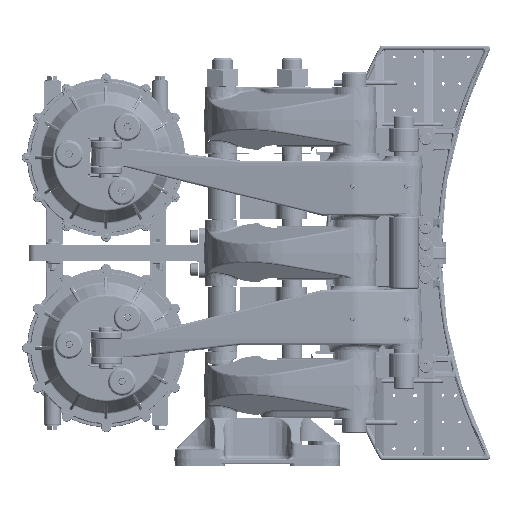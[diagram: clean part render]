
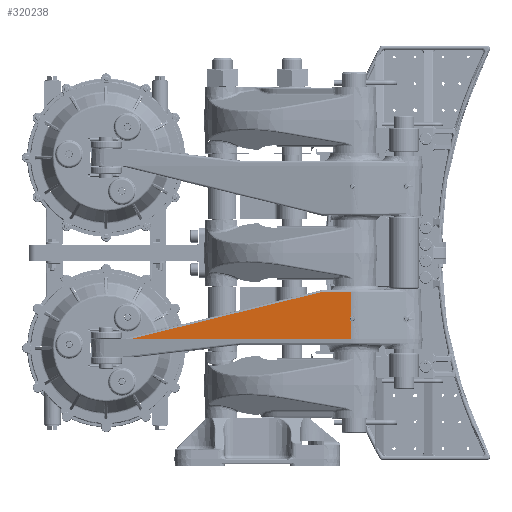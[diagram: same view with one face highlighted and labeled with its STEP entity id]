
A CAD part, top view. The second image highlights one B-rep face of the part: STEP entity #320238.
In plain terms, the highlighted planar face has unit normal (-0.115, 0.035, 0.993).
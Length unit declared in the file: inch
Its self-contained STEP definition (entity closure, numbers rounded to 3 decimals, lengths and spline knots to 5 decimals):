
#12705 = CARTESIAN_POINT ( 'NONE',  ( 1.53793, -4.02473, 7.39436 ) ) ;
#28800 = ORIENTED_EDGE ( 'NONE', *, *, #94747, .T. ) ;
#32259 = CARTESIAN_POINT ( 'NONE',  ( 1.56602, -2.37064, 7.33945 ) ) ;
#38008 = PLANE ( 'NONE',  #123797 ) ;
#45712 = DIRECTION ( 'NONE',  ( 0.004, 0.999, -0.035 ) ) ;
#61890 = ORIENTED_EDGE ( 'NONE', *, *, #306509, .T. ) ;
#70260 = VECTOR ( 'NONE', #135863, 39.37008 ) ;
#83064 = LINE ( 'NONE', #387217, #121386 ) ;
#92175 = CARTESIAN_POINT ( 'NONE',  ( 1.5381, -3.98159, 7.39286 ) ) ;
#94747 = EDGE_CURVE ( 'NONE', #353057, #443726, #350864, .T. ) ;
#98472 = LINE ( 'NONE', #138326, #70260 ) ;
#100011 = CARTESIAN_POINT ( 'NONE',  ( -11.80756, -5.225, 5.89732 ) ) ;
#110264 = CARTESIAN_POINT ( 'NONE',  ( 1.5546, -5.225, 7.43848 ) ) ;
#112262 = DIRECTION ( 'NONE',  ( -0.993, 0., -0.115 ) ) ;
#117606 = FACE_OUTER_BOUND ( 'NONE', #256501, .T. ) ;
#121386 = VECTOR ( 'NONE', #45712, 39.37008 ) ;
#123797 = AXIS2_PLACEMENT_3D ( 'NONE', #110264, #229793, #264781 ) ;
#128702 = DIRECTION ( 'NONE',  ( 0.993, 0., 0.115 ) ) ;
#135863 = DIRECTION ( 'NONE',  ( -0.966, -0.237, -0.103 ) ) ;
#138326 = CARTESIAN_POINT ( 'NONE',  ( 0.81552, -2.12809, 7.24437 ) ) ;
#163842 = VECTOR ( 'NONE', #430544, 39.37008 ) ;
#168853 = VERTEX_POINT ( 'NONE', #32259 ) ;
#213941 =( BOUNDED_CURVE ( )  B_SPLINE_CURVE ( 3, ( #356587, #12705, #92175, #391434 ),
 .UNSPECIFIED., .F., .T. ) 
 B_SPLINE_CURVE_WITH_KNOTS ( ( 4, 4 ),
 ( 2.06666, 3.11371 ),
 .UNSPECIFIED. ) 
 CURVE ( )  GEOMETRIC_REPRESENTATION_ITEM ( )  RATIONAL_B_SPLINE_CURVE ( ( 1., 0.911, 0.911, 1. ) ) 
 REPRESENTATION_ITEM ( '' )  );
#229793 = DIRECTION ( 'NONE',  ( -0.115, 0.035, 0.993 ) ) ;
#236057 = EDGE_CURVE ( 'NONE', #256280, #383861, #213941, .T. ) ;
#242087 = CARTESIAN_POINT ( 'NONE',  ( 1.55972, -3.94431, 7.39405 ) ) ;
#243215 = ORIENTED_EDGE ( 'NONE', *, *, #236057, .T. ) ;
#256280 = VERTEX_POINT ( 'NONE', #480177 ) ;
#256501 = EDGE_LOOP ( 'NONE', ( #381064, #243215, #311304, #61890, #446522, #28800 ) ) ;
#264781 = DIRECTION ( 'NONE',  ( -0.993, 0., -0.115 ) ) ;
#271720 = LINE ( 'NONE', #416362, #381625 ) ;
#283750 = EDGE_CURVE ( 'NONE', #443726, #256280, #83064, .T. ) ;
#285571 = VECTOR ( 'NONE', #128702, 39.37008 ) ;
#292310 = VERTEX_POINT ( 'NONE', #395205 ) ;
#306509 = EDGE_CURVE ( 'NONE', #168853, #292310, #271720, .T. ) ;
#311304 = ORIENTED_EDGE ( 'NONE', *, *, #445738, .T. ) ;
#320238 = ADVANCED_FACE ( 'NONE', ( #117606 ), #38008, .T. ) ;
#350864 = LINE ( 'NONE', #470144, #285571 ) ;
#353057 = VERTEX_POINT ( 'NONE', #100011 ) ;
#356587 = CARTESIAN_POINT ( 'NONE',  ( 1.55925, -4.06216, 7.39814 ) ) ;
#381064 = ORIENTED_EDGE ( 'NONE', *, *, #283750, .T. ) ;
#381625 = VECTOR ( 'NONE', #112262, 39.37008 ) ;
#383861 = VERTEX_POINT ( 'NONE', #242087 ) ;
#387217 = CARTESIAN_POINT ( 'NONE',  ( 1.5546, -5.225, 7.43848 ) ) ;
#390062 = EDGE_CURVE ( 'NONE', #292310, #353057, #98472, .T. ) ;
#391434 = CARTESIAN_POINT ( 'NONE',  ( 1.55972, -3.94431, 7.39405 ) ) ;
#395205 = CARTESIAN_POINT ( 'NONE',  ( -0.17312, -2.37064, 7.13887 ) ) ;
#407049 = CARTESIAN_POINT ( 'NONE',  ( 1.5546, -5.225, 7.43848 ) ) ;
#416362 = CARTESIAN_POINT ( 'NONE',  ( 1.56602, -2.37064, 7.33945 ) ) ;
#430544 = DIRECTION ( 'NONE',  ( 0.004, 0.999, -0.035 ) ) ;
#440295 = LINE ( 'NONE', #467835, #163842 ) ;
#443726 = VERTEX_POINT ( 'NONE', #407049 ) ;
#445738 = EDGE_CURVE ( 'NONE', #383861, #168853, #440295, .T. ) ;
#446522 = ORIENTED_EDGE ( 'NONE', *, *, #390062, .T. ) ;
#467835 = CARTESIAN_POINT ( 'NONE',  ( 1.5546, -5.225, 7.43848 ) ) ;
#470144 = CARTESIAN_POINT ( 'NONE',  ( 1.5546, -5.225, 7.43848 ) ) ;
#480177 = CARTESIAN_POINT ( 'NONE',  ( 1.55925, -4.06216, 7.39814 ) ) ;
